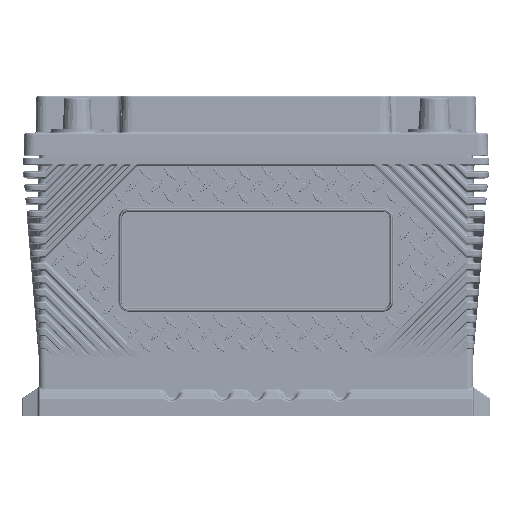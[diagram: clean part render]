
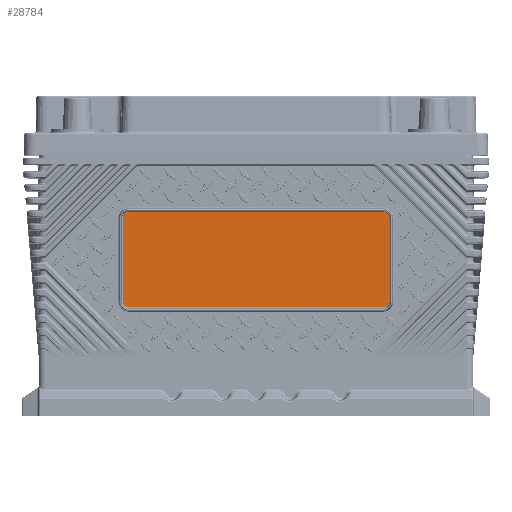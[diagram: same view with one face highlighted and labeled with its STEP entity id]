
A CAD part, top view. The second image highlights one B-rep face of the part: STEP entity #28784.
In plain terms, the highlighted planar face has unit normal (0, -0.001, 1).
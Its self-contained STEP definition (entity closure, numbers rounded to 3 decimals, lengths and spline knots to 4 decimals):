
#4170 = DIRECTION ( 'NONE',  ( 0., -0.001, 1. ) ) ;
#22137 = CARTESIAN_POINT ( 'NONE',  ( 2.9615, 4.7539, 3.154 ) ) ;
#28784 = ADVANCED_FACE ( 'NONE', ( #481166 ), #261074, .T. ) ;
#48568 = CARTESIAN_POINT ( 'NONE',  ( -3.1049, 4.6105, 3.1538 ) ) ;
#54765 = EDGE_CURVE ( 'NONE', #491328, #266656, #76495, .T. ) ;
#70411 = DIRECTION ( 'NONE',  ( 0., -0.001, 1. ) ) ;
#74046 = CARTESIAN_POINT ( 'NONE',  ( 2.9615, 4.6105, 3.1538 ) ) ;
#76495 = LINE ( 'NONE', #186617, #422086 ) ;
#99181 = CIRCLE ( 'NONE', #474355, 0.1434 ) ;
#105000 = EDGE_CURVE ( 'NONE', #157604, #491328, #449074, .T. ) ;
#107310 = DIRECTION ( 'NONE',  ( 0., -0.001, 1. ) ) ;
#125565 = EDGE_CURVE ( 'NONE', #242721, #156048, #344542, .T. ) ;
#129936 = AXIS2_PLACEMENT_3D ( 'NONE', #253691, #146056, #331093 ) ;
#134066 = EDGE_CURVE ( 'NONE', #386977, #359709, #341459, .T. ) ;
#138758 = EDGE_CURVE ( 'NONE', #359709, #157604, #473546, .T. ) ;
#146056 = DIRECTION ( 'NONE',  ( 0., -0.001, 1. ) ) ;
#150801 = ORIENTED_EDGE ( 'NONE', *, *, #105000, .T. ) ;
#154596 = CARTESIAN_POINT ( 'NONE',  ( -5.064, 4.7539, 3.154 ) ) ;
#156048 = VERTEX_POINT ( 'NONE', #277514 ) ;
#157604 = VERTEX_POINT ( 'NONE', #247711 ) ;
#159157 = CARTESIAN_POINT ( 'NONE',  ( -2.9615, 2.6725, 3.1518 ) ) ;
#163584 = DIRECTION ( 'NONE',  ( 1., 0., 0. ) ) ;
#166056 = CARTESIAN_POINT ( 'NONE',  ( -5.064, 2.5291, 3.1516 ) ) ;
#166445 = LINE ( 'NONE', #328723, #264668 ) ;
#186617 = CARTESIAN_POINT ( 'NONE',  ( 3.1049, 0., 3.149 ) ) ;
#193959 = DIRECTION ( 'NONE',  ( 0., 1., 0.001 ) ) ;
#199116 = DIRECTION ( 'NONE',  ( 0., -1., -0.001 ) ) ;
#201352 = AXIS2_PLACEMENT_3D ( 'NONE', #214954, #107310, #243275 ) ;
#214954 = CARTESIAN_POINT ( 'NONE',  ( -2.9615, 4.6105, 3.1538 ) ) ;
#230179 = ORIENTED_EDGE ( 'NONE', *, *, #134066, .T. ) ;
#230591 = CARTESIAN_POINT ( 'NONE',  ( -3.1049, 2.6725, 3.1518 ) ) ;
#242721 = VERTEX_POINT ( 'NONE', #22137 ) ;
#243275 = DIRECTION ( 'NONE',  ( 0., -1., -0.001 ) ) ;
#244211 = ORIENTED_EDGE ( 'NONE', *, *, #54765, .T. ) ;
#246560 = CARTESIAN_POINT ( 'NONE',  ( 3.1049, 2.6725, 3.1518 ) ) ;
#247711 = CARTESIAN_POINT ( 'NONE',  ( 2.9615, 2.5291, 3.1516 ) ) ;
#253691 = CARTESIAN_POINT ( 'NONE',  ( -5.064, 0., 3.149 ) ) ;
#256736 = DIRECTION ( 'NONE',  ( 0., -1., -0.001 ) ) ;
#257270 = VECTOR ( 'NONE', #304578, 39.3701 ) ;
#261074 = PLANE ( 'NONE',  #129936 ) ;
#264089 = DIRECTION ( 'NONE',  ( 0., -0.001, 1. ) ) ;
#264668 = VECTOR ( 'NONE', #481289, 39.3701 ) ;
#266656 = VERTEX_POINT ( 'NONE', #382266 ) ;
#277514 = CARTESIAN_POINT ( 'NONE',  ( -2.9615, 4.7539, 3.154 ) ) ;
#283558 = ORIENTED_EDGE ( 'NONE', *, *, #138758, .T. ) ;
#297274 = AXIS2_PLACEMENT_3D ( 'NONE', #413021, #70411, #305330 ) ;
#300782 = ORIENTED_EDGE ( 'NONE', *, *, #125565, .T. ) ;
#304578 = DIRECTION ( 'NONE',  ( -1., 0., 0. ) ) ;
#305330 = DIRECTION ( 'NONE',  ( 0., -1., -0.001 ) ) ;
#317906 = CARTESIAN_POINT ( 'NONE',  ( -2.9615, 2.5291, 3.1516 ) ) ;
#322509 = ORIENTED_EDGE ( 'NONE', *, *, #356555, .T. ) ;
#328723 = CARTESIAN_POINT ( 'NONE',  ( -3.1049, 0., 3.149 ) ) ;
#331093 = DIRECTION ( 'NONE',  ( 0., -1., -0.001 ) ) ;
#341459 = CIRCLE ( 'NONE', #437183, 0.1434 ) ;
#344542 = LINE ( 'NONE', #154596, #257270 ) ;
#353024 = CIRCLE ( 'NONE', #201352, 0.1434 ) ;
#355515 = EDGE_LOOP ( 'NONE', ( #459984, #230179, #283558, #150801, #244211, #473658, #300782, #322509 ) ) ;
#356555 = EDGE_CURVE ( 'NONE', #156048, #470526, #353024, .T. ) ;
#359709 = VERTEX_POINT ( 'NONE', #317906 ) ;
#376108 = EDGE_CURVE ( 'NONE', #266656, #242721, #99181, .T. ) ;
#382266 = CARTESIAN_POINT ( 'NONE',  ( 3.1049, 4.6105, 3.1538 ) ) ;
#386977 = VERTEX_POINT ( 'NONE', #230591 ) ;
#392795 = VECTOR ( 'NONE', #163584, 39.3701 ) ;
#411655 = EDGE_CURVE ( 'NONE', #470526, #386977, #166445, .T. ) ;
#413021 = CARTESIAN_POINT ( 'NONE',  ( 2.9615, 2.6725, 3.1518 ) ) ;
#422086 = VECTOR ( 'NONE', #193959, 39.3701 ) ;
#437183 = AXIS2_PLACEMENT_3D ( 'NONE', #159157, #4170, #199116 ) ;
#449074 = CIRCLE ( 'NONE', #297274, 0.1434 ) ;
#459984 = ORIENTED_EDGE ( 'NONE', *, *, #411655, .T. ) ;
#470526 = VERTEX_POINT ( 'NONE', #48568 ) ;
#473546 = LINE ( 'NONE', #166056, #392795 ) ;
#473658 = ORIENTED_EDGE ( 'NONE', *, *, #376108, .T. ) ;
#474355 = AXIS2_PLACEMENT_3D ( 'NONE', #74046, #264089, #256736 ) ;
#481166 = FACE_OUTER_BOUND ( 'NONE', #355515, .T. ) ;
#481289 = DIRECTION ( 'NONE',  ( 0., -1., -0.001 ) ) ;
#491328 = VERTEX_POINT ( 'NONE', #246560 ) ;
